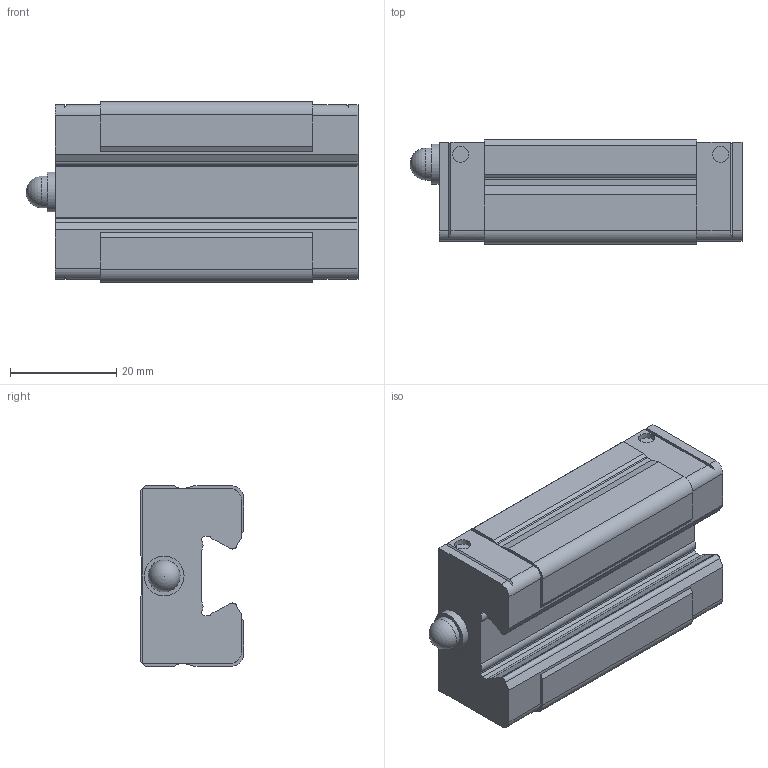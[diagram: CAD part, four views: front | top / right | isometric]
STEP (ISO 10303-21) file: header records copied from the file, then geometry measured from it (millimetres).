
FILE_DESCRIPTION(/* description */ ('STEP AP214'),/* implementation_level */ '2;1');
FILE_NAME(/* name */ 'SSR15XW1SS(GK) BLOCK(1PB1021B)',/* time_stamp */ '2023-06-01T10:53:32+02:00',/* author */ ('License CC BY-ND 4.0'),/* organization */ ('CADENAS'),/* preprocessor_version */ 'ST-DEVELOPER v19.3',/* originating_system */ 'PARTsolutions',/* authorisation */ ' ');
FILE_SCHEMA (('AUTOMOTIVE_DESIGN {1 0 10303 214 3 1 1}'));
Length unit declared in the file: millimetre
Products named in the file (3): SSR15XW1SS(GK) BLOCK(1PB1021B); PB107PB1021BNipple; SSR15XWYSSPB1021B1 Slide15
Assembly tree (2 placements, depth 2):
  SSR15XW1SS(GK) BLOCK(1PB1021B)
    PB107PB1021BNipple
    SSR15XWYSSPB1021B1 Slide15
Bounding box: 62.4 x 19.5 x 34 mm (x, y, z)
Volume: 30529.8 mm3; surface area: 8901.9 mm2
Topology: 2 solids, 2 shells, 107 faces, 280 edges, 184 vertices
Faces by surface type: plane 69, cylinder 29, cone 8, sphere 1
Full cylindrical faces by diameter (mm): 3 x4, 3.242 x4, 4 x3, 6 x1, 7.5 x1
Entity records: 3171 total; most frequent: DIRECTION 538, CARTESIAN_POINT 536, ORIENTED_EDGE 496, EDGE_CURVE 248, AXIS2_PLACEMENT_3D 180, LINE 178, VECTOR 178, VERTEX_POINT 178
